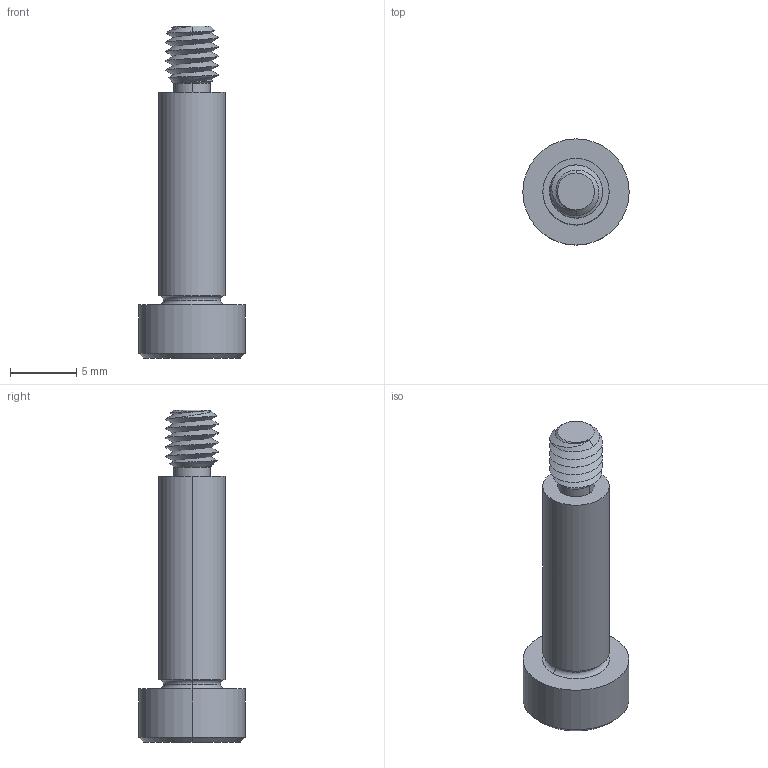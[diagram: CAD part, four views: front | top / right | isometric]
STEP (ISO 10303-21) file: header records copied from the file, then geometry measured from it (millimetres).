
FILE_DESCRIPTION (( 'STEP AP203' ), '1' );
FILE_NAME ('P0130.050-016-B2.step', '2021-11-09T21:14:52', ( '' ), ( '' ), 'SwSTEP 2.0', 'SolidWorks 2019', '' );
FILE_SCHEMA (( 'CONFIG_CONTROL_DESIGN' ));
Length unit declared in the file: millimetre
Products named in the file (1): P0130.050-016-B2
Bounding box: 8 x 8 x 25 mm (x, y, z)
Volume: 538.4 mm3; surface area: 566.8 mm2
Topology: 1 solids, 1 shells, 53 faces, 121 edges, 71 vertices
Faces by surface type: cylinder 16, plane 16, cone 15, torus 4, bspline 2
Entity records: 2151 total; most frequent: CARTESIAN_POINT 968, ORIENTED_EDGE 238, DIRECTION 226, EDGE_CURVE 119, AXIS2_PLACEMENT_3D 92, VERTEX_POINT 71, EDGE_LOOP 56, ADVANCED_FACE 53
